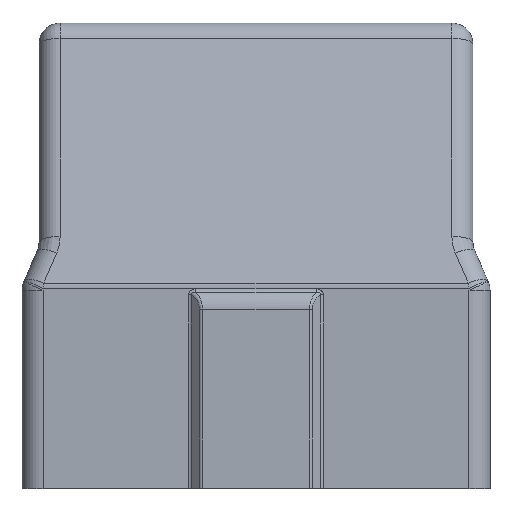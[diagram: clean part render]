
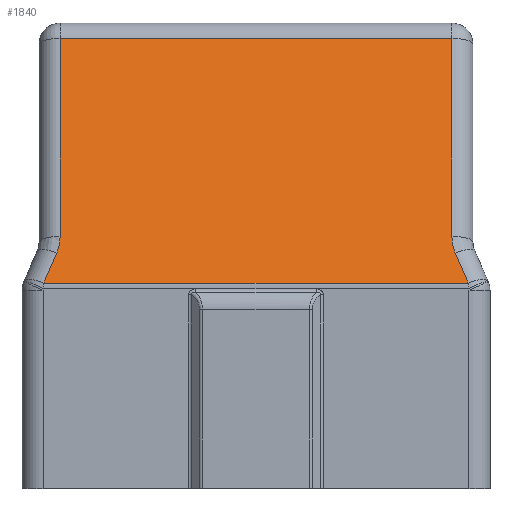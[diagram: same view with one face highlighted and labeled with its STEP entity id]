
A CAD part, top view. The second image highlights one B-rep face of the part: STEP entity #1840.
In plain terms, the highlighted planar face has unit normal (0, 0.27, 0.963).
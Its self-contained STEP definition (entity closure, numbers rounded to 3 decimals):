
#96=ELLIPSE('',#2024,1.662,1.6);
#97=ELLIPSE('',#2025,1.662,1.6);
#148=LINE('',#3092,#270);
#149=LINE('',#3095,#271);
#150=LINE('',#3099,#272);
#151=LINE('',#3101,#273);
#152=LINE('',#3103,#274);
#153=LINE('',#3107,#275);
#270=VECTOR('',#2376,1000.);
#271=VECTOR('',#2377,1000.);
#272=VECTOR('',#2380,1000.);
#273=VECTOR('',#2381,1000.);
#274=VECTOR('',#2382,1000.);
#275=VECTOR('',#2385,1000.);
#364=PLANE('',#2023);
#656=ORIENTED_EDGE('',*,*,#1187,.T.);
#657=ORIENTED_EDGE('',*,*,#1188,.T.);
#658=ORIENTED_EDGE('',*,*,#1189,.F.);
#659=ORIENTED_EDGE('',*,*,#1190,.T.);
#660=ORIENTED_EDGE('',*,*,#1191,.T.);
#661=ORIENTED_EDGE('',*,*,#1192,.T.);
#662=ORIENTED_EDGE('',*,*,#1193,.F.);
#663=ORIENTED_EDGE('',*,*,#1194,.T.);
#1187=EDGE_CURVE('',#1453,#1454,#148,.F.);
#1188=EDGE_CURVE('',#1454,#1455,#149,.T.);
#1189=EDGE_CURVE('',#1456,#1455,#96,.T.);
#1190=EDGE_CURVE('',#1456,#1457,#150,.T.);
#1191=EDGE_CURVE('',#1457,#1458,#151,.T.);
#1192=EDGE_CURVE('',#1458,#1459,#152,.T.);
#1193=EDGE_CURVE('',#1460,#1459,#97,.T.);
#1194=EDGE_CURVE('',#1460,#1453,#153,.T.);
#1453=VERTEX_POINT('',#3093);
#1454=VERTEX_POINT('',#3094);
#1455=VERTEX_POINT('',#3096);
#1456=VERTEX_POINT('',#3098);
#1457=VERTEX_POINT('',#3100);
#1458=VERTEX_POINT('',#3102);
#1459=VERTEX_POINT('',#3104);
#1460=VERTEX_POINT('',#3106);
#1585=EDGE_LOOP('',(#656,#657,#658,#659,#660,#661,#662,#663));
#1707=FACE_BOUND('',#1585,.T.);
#1840=ADVANCED_FACE('',(#1707),#364,.T.);
#2023=AXIS2_PLACEMENT_3D('',#3091,#2374,#2375);
#2024=AXIS2_PLACEMENT_3D('',#3097,#2378,#2379);
#2025=AXIS2_PLACEMENT_3D('',#3105,#2383,#2384);
#2374=DIRECTION('',(0.,0.27,0.963));
#2375=DIRECTION('',(0.,-0.963,0.27));
#2376=DIRECTION('',(1.,0.,0.));
#2377=DIRECTION('',(0.,-0.963,0.27));
#2378=DIRECTION('',(0.,0.27,0.963));
#2379=DIRECTION('',(0.,0.963,-0.27));
#2380=DIRECTION('',(-0.385,-0.889,0.249));
#2381=DIRECTION('',(1.,0.,0.));
#2382=DIRECTION('',(-0.385,0.889,-0.249));
#2383=DIRECTION('',(0.,0.27,0.963));
#2384=DIRECTION('',(0.,0.963,-0.27));
#2385=DIRECTION('',(0.,0.963,-0.27));
#3091=CARTESIAN_POINT('',(-9.269,17.7,4.));
#3092=CARTESIAN_POINT('',(-9.269,17.116,4.164));
#3093=CARTESIAN_POINT('',(7.45,17.116,4.164));
#3094=CARTESIAN_POINT('',(-7.45,17.116,4.164));
#3095=CARTESIAN_POINT('',(-7.45,17.7,4.));
#3096=CARTESIAN_POINT('',(-7.45,9.582,6.273));
#3097=CARTESIAN_POINT('',(-9.05,9.582,6.273));
#3098=CARTESIAN_POINT('',(-7.582,8.945,6.451));
#3099=CARTESIAN_POINT('',(-4.601,15.824,4.525));
#3100=CARTESIAN_POINT('',(-8.076,7.806,6.77));
#3101=CARTESIAN_POINT('',(8.9,7.806,6.77));
#3102=CARTESIAN_POINT('',(8.076,7.806,6.77));
#3103=CARTESIAN_POINT('',(1.852,22.169,2.749));
#3104=CARTESIAN_POINT('',(7.582,8.945,6.451));
#3105=CARTESIAN_POINT('',(9.05,9.582,6.273));
#3106=CARTESIAN_POINT('',(7.45,9.582,6.273));
#3107=CARTESIAN_POINT('',(7.45,17.7,4.));
